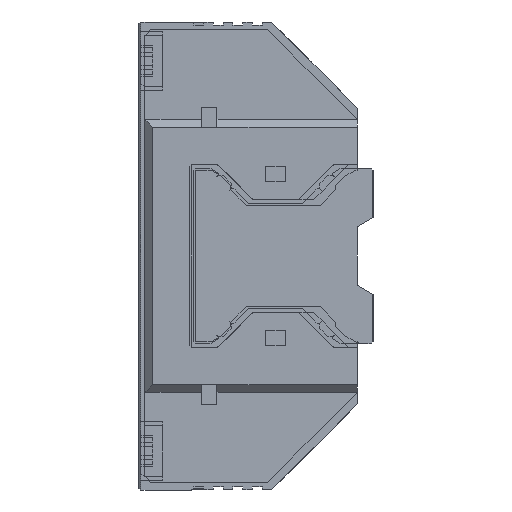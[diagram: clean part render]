
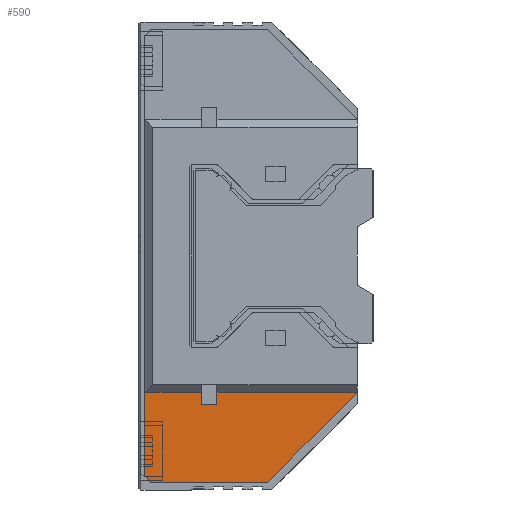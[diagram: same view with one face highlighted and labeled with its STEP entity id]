
A CAD part, left-side view. The second image highlights one B-rep face of the part: STEP entity #590.
In plain terms, the highlighted planar face has unit normal (-1, 0, 0).
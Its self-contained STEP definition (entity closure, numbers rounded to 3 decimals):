
#590 = ADVANCED_FACE( '', ( #1863 ), #1864, .T. );
#1863 = FACE_OUTER_BOUND( '', #3360, .T. );
#1864 = PLANE( '', #3361 );
#3360 = EDGE_LOOP( '', ( #6936, #6937, #6938, #6939, #6940, #6941, #6942, #6943, #6944 ) );
#3361 = AXIS2_PLACEMENT_3D( '', #6945, #6946, #6947 );
#6936 = ORIENTED_EDGE( '', *, *, #9669, .F. );
#6937 = ORIENTED_EDGE( '', *, *, #9684, .F. );
#6938 = ORIENTED_EDGE( '', *, *, #9685, .F. );
#6939 = ORIENTED_EDGE( '', *, *, #9686, .F. );
#6940 = ORIENTED_EDGE( '', *, *, #9687, .F. );
#6941 = ORIENTED_EDGE( '', *, *, #9688, .F. );
#6942 = ORIENTED_EDGE( '', *, *, #9689, .F. );
#6943 = ORIENTED_EDGE( '', *, *, #9663, .T. );
#6944 = ORIENTED_EDGE( '', *, *, #9667, .T. );
#6945 = CARTESIAN_POINT( '', ( -85.5, 82.5, -35. ) );
#6946 = DIRECTION( '', ( -1., 0., 0. ) );
#6947 = DIRECTION( '', ( 0., 0., 1. ) );
#9663 = EDGE_CURVE( '', #11950, #11948, #11951, .T. );
#9667 = EDGE_CURVE( '', #11948, #11955, #11957, .T. );
#9669 = EDGE_CURVE( '', #11959, #11955, #11961, .T. );
#9684 = EDGE_CURVE( '', #11982, #11959, #11985, .T. );
#9685 = EDGE_CURVE( '', #11986, #11982, #11987, .T. );
#9686 = EDGE_CURVE( '', #11988, #11986, #11989, .T. );
#9687 = EDGE_CURVE( '', #11990, #11988, #11991, .T. );
#9688 = EDGE_CURVE( '', #11870, #11990, #11992, .T. );
#9689 = EDGE_CURVE( '', #11950, #11870, #11993, .T. );
#11870 = VERTEX_POINT( '', #15046 );
#11948 = VERTEX_POINT( '', #15167 );
#11950 = VERTEX_POINT( '', #15170 );
#11951 = LINE( '', #15171, #15172 );
#11955 = VERTEX_POINT( '', #15178 );
#11957 = LINE( '', #15181, #15182 );
#11959 = VERTEX_POINT( '', #15184 );
#11961 = LINE( '', #15187, #15188 );
#11982 = VERTEX_POINT( '', #15221 );
#11985 = LINE( '', #15226, #15227 );
#11986 = VERTEX_POINT( '', #15228 );
#11987 = LINE( '', #15229, #15230 );
#11988 = VERTEX_POINT( '', #15231 );
#11989 = LINE( '', #15232, #15233 );
#11990 = VERTEX_POINT( '', #15234 );
#11991 = LINE( '', #15235, #15236 );
#11992 = LINE( '', #15237, #15238 );
#11993 = LINE( '', #15239, #15240 );
#15046 = CARTESIAN_POINT( '', ( -85.5, -19., -35. ) );
#15167 = CARTESIAN_POINT( '', ( -85.5, 17., -38. ) );
#15170 = CARTESIAN_POINT( '', ( -85.5, 17., -35. ) );
#15171 = CARTESIAN_POINT( '', ( -85.5, 17., -35. ) );
#15172 = VECTOR( '', #18175, 1000. );
#15178 = CARTESIAN_POINT( '', ( -85.5, 21., -38. ) );
#15181 = CARTESIAN_POINT( '', ( -85.5, 82.5, -38. ) );
#15182 = VECTOR( '', #18179, 1000. );
#15184 = CARTESIAN_POINT( '', ( -85.5, 21., -35. ) );
#15187 = CARTESIAN_POINT( '', ( -85.5, 21., -35. ) );
#15188 = VECTOR( '', #18181, 1000. );
#15221 = CARTESIAN_POINT( '', ( -85.5, 35.5, -35. ) );
#15226 = CARTESIAN_POINT( '', ( -85.5, 82.5, -35. ) );
#15227 = VECTOR( '', #18196, 1000. );
#15228 = CARTESIAN_POINT( '', ( -85.5, 35.5, -56.5 ) );
#15229 = CARTESIAN_POINT( '', ( -85.5, 35.5, -56.5 ) );
#15230 = VECTOR( '', #18197, 1000. );
#15231 = CARTESIAN_POINT( '', ( -85.5, 34., -58. ) );
#15232 = CARTESIAN_POINT( '', ( -85.5, 34., -58. ) );
#15233 = VECTOR( '', #18198, 1000. );
#15234 = CARTESIAN_POINT( '', ( -85.5, 4., -58. ) );
#15235 = CARTESIAN_POINT( '', ( -85.5, 4., -58. ) );
#15236 = VECTOR( '', #18199, 1000. );
#15237 = CARTESIAN_POINT( '', ( -85.5, -19., -35. ) );
#15238 = VECTOR( '', #18200, 1000. );
#15239 = CARTESIAN_POINT( '', ( -85.5, 82.5, -35. ) );
#15240 = VECTOR( '', #18201, 1000. );
#18175 = DIRECTION( '', ( 0., 0., -1. ) );
#18179 = DIRECTION( '', ( 0., 1., 0. ) );
#18181 = DIRECTION( '', ( 0., 0., -1. ) );
#18196 = DIRECTION( '', ( 0., -1., 0. ) );
#18197 = DIRECTION( '', ( 0., 0., 1. ) );
#18198 = DIRECTION( '', ( 0., 0.707, 0.707 ) );
#18199 = DIRECTION( '', ( 0., 1., 0. ) );
#18200 = DIRECTION( '', ( 0., 0.707, -0.707 ) );
#18201 = DIRECTION( '', ( 0., -1., 0. ) );
